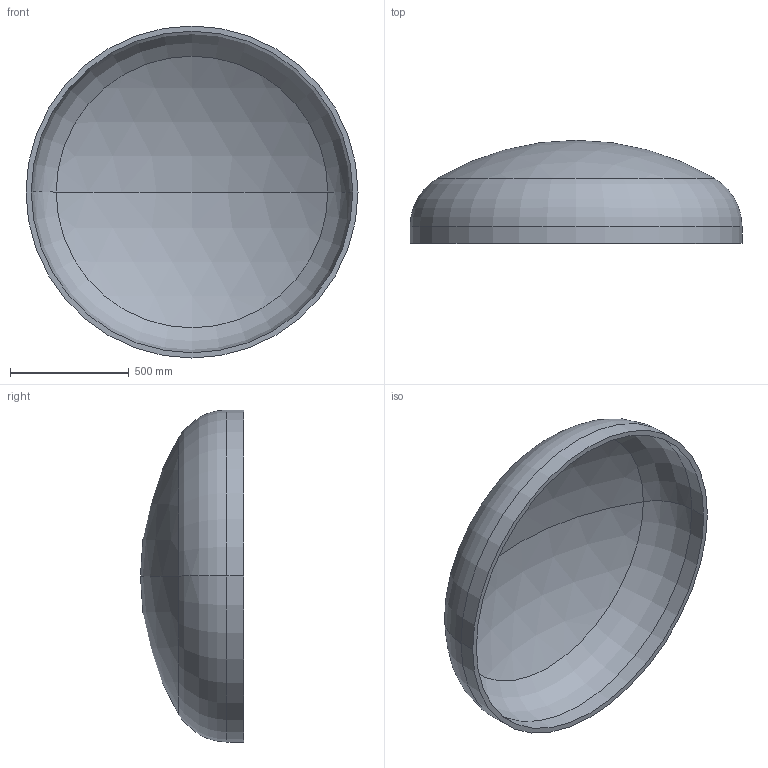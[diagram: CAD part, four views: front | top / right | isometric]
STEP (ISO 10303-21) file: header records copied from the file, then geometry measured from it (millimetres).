
FILE_DESCRIPTION (( 'STEP AP203' ), '1' );
FILE_NAME ('DIN 28013 Korbbogenform_-_Boden DIN 28013 - 1400 x 70 - I - s=22.step', '2016-07-01T10:11:36', ( '' ), ( '' ), 'SwSTEP 2.0', 'SolidWorks 2013', '' );
FILE_SCHEMA (( 'CONFIG_CONTROL_DESIGN' ));
Length unit declared in the file: millimetre
Products named in the file (1): DIN 28013 Korbbogenform_-_Boden DIN 28013 - 1400 x 70 - I - s=22
Bounding box: 1400 x 434.4 x 1400 mm (x, y, z)
Volume: 52583039 mm3; surface area: 4876528.9 mm2
Topology: 1 solids, 1 shells, 13 faces, 24 edges, 14 vertices
Faces by surface type: torus 4, cylinder 4, sphere 4, plane 1
Entity records: 407 total; most frequent: DIRECTION 72, CARTESIAN_POINT 52, ORIENTED_EDGE 48, AXIS2_PLACEMENT_3D 34, EDGE_CURVE 24, CIRCLE 20, VERTEX_POINT 14, EDGE_LOOP 14
